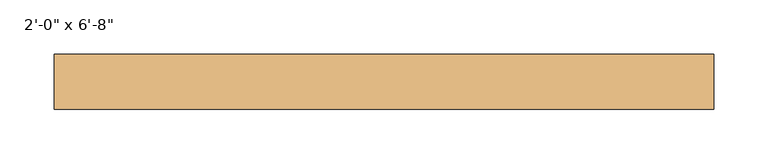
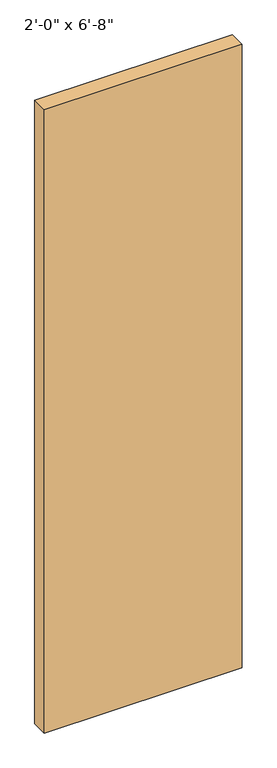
"""IFC4 building model written with IfcOpenShell, lengths in millimetres: door geometry."""

from ifc_helpers import new_model, si_unit, origin, origin_with_axes, place, context, project, spatial, polyline, outline, extrude, source, transform, mapped, element, save


def door_aef79686(model_context):
    return source(origin(), model_context, "Body", "SweptSolid", [
        extrude(outline(polyline([(304.8, 6.1515625), (-304.8, 6.1515625), (-304.8, 57.15), (304.8, 57.15), (304.8, 6.1515625)])), origin_with_axes(), (0.0, 0.0, 1.0), 2032.0),
    ])


if __name__ == "__main__":
    model = new_model("IFC4")
    model_context = context("Model", 3, world=origin())
    ifc_project = project(units=[si_unit("LENGTHUNIT", "METRE", prefix="MILLI")], contexts=[model_context])
    site = spatial("IfcSite", under=ifc_project)
    building = spatial("IfcBuilding", under=site)
    placement = place(None, origin())
    door_shape = door_aef79686(model_context)
    element("IfcDoor", 1, ObjectType="Planitar - Single Door_Flush Panel : 2'-0\" x 6'-8\"", at=placement, inside=building, context=model_context, shape_type="MappedRepresentation", body=[
        mapped(door_shape, transform((0.0, 0.0, 0.0), x_axis=(1.0, 0.0, 0.0), y_axis=(0.0, 1.0, 0.0), z_axis=(0.0, 0.0, 1.0))),
    ])
    save(model, "model.ifc")
